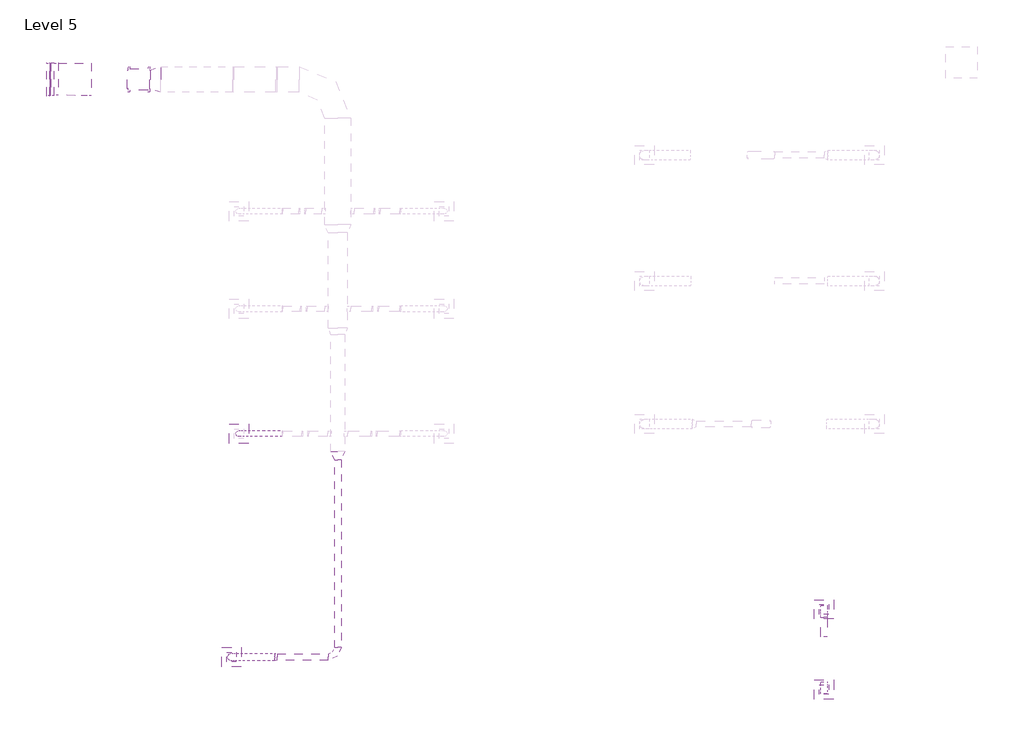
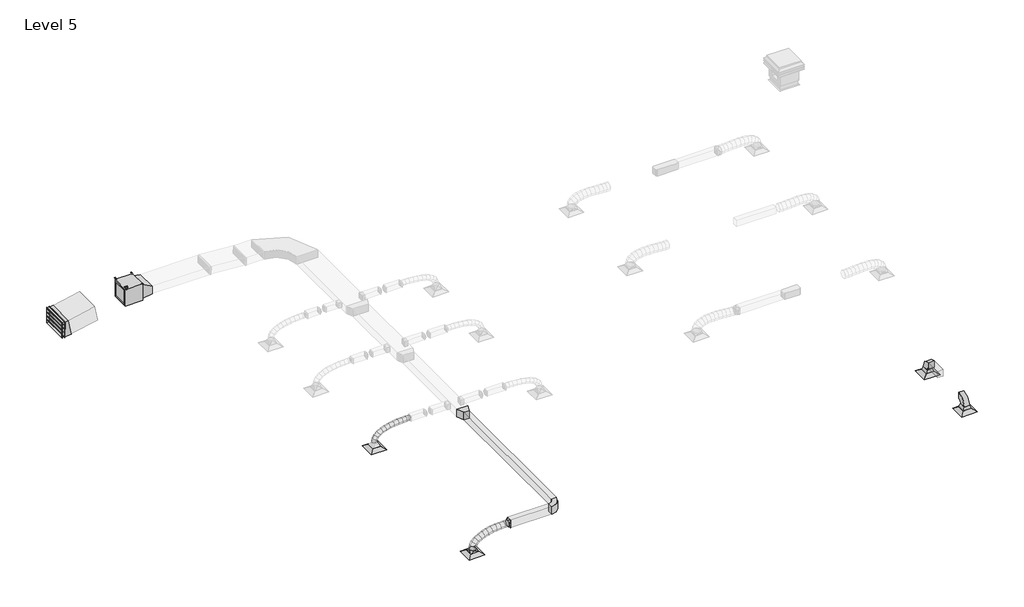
# One storey, part 1 of 7: 10 duct fittings, 9 duct segments, 5 air terminals, 1 proxy.
"""IFC4 building model written with IfcOpenShell, lengths in millimetres."""

from ifc_helpers import new_model, si_unit, frame, origin, place, context, project, spatial, polyline, circle_curve, ellipse_curve, outline, extrude, transform, mapped, element, save
from ifc_brep_helpers import plane_surface, cylinder_surface, advanced_brep
from components import extract_grille_600_x_600_face_300_x_300_connection_8a0e72a1, louvre_extruded_d47c0ff8, supply_diffuser_24_x_24_face_16_x_16_connection_3cd54949, mechanical_equipment_4f591df0, rectangular_elbow_radius_1_5_w_4260a3d3, rectangular_elbow_radius_1_5_w_bef65fd4, rectangular_medium_radius_bend_slip_joint_standard_c436b681, rectangular_medium_radius_bend_slip_joint_standard_1b082aae, rectangular_transition_angle_45_degree_aa70833a, rectangular_transition_angle_45_degree_6f019713, rectangular_transition_angle_45_degree_7a9f45a1, rectangular_to_round_transition_angle_45_degree_828fc044, rectangular_to_round_transition_angle_45_degree_84459b07

model = new_model("IFC4")

# Units and contexts
model_context = context("Model", 3, world=origin())
ifc_project = project(units=[si_unit("LENGTHUNIT", "METRE", prefix="MILLI")], contexts=[model_context])

# Site, building, storey
site = spatial("IfcSite", under=ifc_project)
building = spatial("IfcBuilding", under=site)
storey = spatial("IfcBuildingStorey", under=building, Name="Level 5", Elevation=19507.2)

# Air terminals
placement = place(None, origin())
extract_grille_600_x_600_face_300_x_300_connection_shape = extract_grille_600_x_600_face_300_x_300_connection_8a0e72a1(model_context)
element("IfcAirTerminal", 1, ObjectType="Extract Grille : 600 x 600 Face 300 x 300 Connection", at=placement, inside=storey, context=model_context, shape_type="MappedRepresentation", body=[
    mapped(extract_grille_600_x_600_face_300_x_300_connection_shape, transform((-13951.4273397, 4033.0001252, 21507.2), x_axis=(1.0, 0.0, 0.0), y_axis=(0.0, 1.0, 0.0), z_axis=(0.0, 0.0, 1.0))),
])
element("IfcAirTerminal", 2, ObjectType="Extract Grille : 600 x 600 Face 300 x 300 Connection", at=placement, inside=storey, context=model_context, shape_type="MappedRepresentation", body=[
    mapped(extract_grille_600_x_600_face_300_x_300_connection_shape, transform((-14177.4337542, -2888.3157605, 21507.2), x_axis=(1.0, 0.0, 0.0), y_axis=(0.0, 1.0, 0.0), z_axis=(0.0, 0.0, 1.0))),
])
louvre_extruded_shape = louvre_extruded_d47c0ff8(model_context)
element("IfcAirTerminal", 3, ObjectType="Louvre - Extruded : Standard Exaust", at=placement, inside=storey, context=model_context, shape_type="MappedRepresentation", body=[
    mapped(louvre_extruded_shape, transform((-19905.112755, 15011.4984256, 22007.2), x_axis=(0.0, 1.0, 0.0), y_axis=(0.0, 0.0, -1.0), z_axis=(-1.0, 0.0, 0.0))),
])
supply_diffuser_24_x_24_face_16_x_16_connection_shape = supply_diffuser_24_x_24_face_16_x_16_connection_3cd54949(model_context)
element("IfcAirTerminal", 4, ObjectType="Supply Diffuser : 24 x 24 Face 16 x 16 Connection", at=placement, inside=storey, context=model_context, shape_type="MappedRepresentation", body=[
    mapped(supply_diffuser_24_x_24_face_16_x_16_connection_shape, transform((4160.3442434, -1411.6948869, 21507.2), x_axis=(-1.0, 0.0, 0.0), y_axis=(0.0, -1.0, 0.0), z_axis=(0.0, 0.0, 1.0))),
])
element("IfcAirTerminal", 5, ObjectType="Supply Diffuser : 24 x 24 Face 16 x 16 Connection", at=placement, inside=storey, context=model_context, shape_type="MappedRepresentation", body=[
    mapped(supply_diffuser_24_x_24_face_16_x_16_connection_shape, transform((4160.3442434, -3898.5852581, 21507.2), x_axis=(-1.0, 0.0, 0.0), y_axis=(0.0, -1.0, 0.0), z_axis=(0.0, 0.0, 1.0))),
])

# Proxy
mechanical_equipment_shape = mechanical_equipment_4f591df0(model_context)
element("IfcBuildingElementProxy", 6, Name="Fan-Exhaust-CaptiveAire-Centrifugal_Inline_Direct_Drive : SIDD-165", ObjectType="Fan-Exhaust-CaptiveAire-Centrifugal_Inline_Direct_Drive : SIDD-165", at=placement, inside=storey, context=model_context, shape_type="MappedRepresentation", body=[
    mapped(mechanical_equipment_shape, transform((-17044.8230245, 15002.6239015, 22007.25), x_axis=(-1.0, 0.0, 0.0), y_axis=(0.0, -1.0, 0.0), z_axis=(0.0, 0.0, 1.0))),
])

# Duct fittings
rectangular_elbow_radius_1_5_w_shape = rectangular_elbow_radius_1_5_w_4260a3d3(model_context)
element("IfcDuctFitting", 7, ObjectType="Rectangular Elbow - Radius : 1.5 W", at=placement, inside=storey, context=model_context, shape_type="MappedRepresentation", body=[
    mapped(rectangular_elbow_radius_1_5_w_shape, transform((-19691.502558, 15011.4984256, 22007.2), x_axis=(-0.9807852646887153, 0.005141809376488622, -0.19502263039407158), y_axis=(-0.1950904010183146, -0.02584961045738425, 0.9804445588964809), z_axis=(0.0, 0.9996526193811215, 0.026356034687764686))),
])
rectangular_elbow_radius_1_5_w_2_shape = rectangular_elbow_radius_1_5_w_bef65fd4(model_context)
element("IfcDuctFitting", 8, ObjectType="Rectangular Elbow - Radius : 1.5 W", at=placement, inside=storey, context=model_context, shape_type="MappedRepresentation", body=[
    mapped(rectangular_elbow_radius_1_5_w_2_shape, transform((-10888.399049, -2888.3157605, 22250.4), x_axis=(1.0, 0.0, 0.0), y_axis=(0.0, 1.0, 0.0), z_axis=(0.0, 0.0, 1.0))),
])
rectangular_medium_radius_bend_slip_joint_standard_shape = rectangular_medium_radius_bend_slip_joint_standard_c436b681(model_context)
element("IfcDuctFitting", 9, ObjectType="Rectangular Medium Radius Bend - Slip Joint : Standard", at=placement, inside=storey, context=model_context, shape_type="MappedRepresentation", body=[
    mapped(rectangular_medium_radius_bend_slip_joint_standard_shape, transform((4160.3442434, -3898.5852581, 21983.3994502), x_axis=(0.0, 0.0, 1.0), y_axis=(0.0, 1.0, 0.0), z_axis=(-1.0, 0.0, 0.0))),
])
rectangular_medium_radius_bend_slip_joint_standard_2_shape = rectangular_medium_radius_bend_slip_joint_standard_1b082aae(model_context)
element("IfcDuctFitting", 10, ObjectType="Rectangular Medium Radius Bend - Slip Joint : Standard", at=placement, inside=storey, context=model_context, shape_type="MappedRepresentation", body=[
    mapped(rectangular_medium_radius_bend_slip_joint_standard_2_shape, transform((4160.3442434, -1411.6948869, 21983.4093771), x_axis=(0.0, 0.0, 1.0), y_axis=(0.0, -1.0, 0.0), z_axis=(1.0, 0.0, 0.0))),
])
rectangular_transition_angle_45_degree_shape = rectangular_transition_angle_45_degree_aa70833a(model_context)
element("IfcDuctFitting", 11, ObjectType="Rectangular Transition - Angle : 45 Degree", at=placement, inside=storey, context=model_context, shape_type="MappedRepresentation", body=[
    mapped(rectangular_transition_angle_45_degree_shape, transform((-16375.3958414, 15002.6239015, 22343.8), x_axis=(-1.0, 0.0, 0.0), y_axis=(0.0, -1.0, 0.0), z_axis=(0.0, 0.0, 1.0))),
])
rectangular_transition_angle_45_degree_2_shape = rectangular_transition_angle_45_degree_6f019713(model_context)
element("IfcDuctFitting", 12, ObjectType="Rectangular Transition - Angle : 45 Degree", at=placement, inside=storey, context=model_context, shape_type="MappedRepresentation", body=[
    mapped(rectangular_transition_angle_45_degree_2_shape, transform((-10888.399049, 3214.8993533, 22250.4), x_axis=(0.0, 1.0, 0.0), y_axis=(-1.0, 0.0, 0.0), z_axis=(0.0, 0.0, 1.0))),
])
rectangular_transition_angle_45_degree_3_shape = rectangular_transition_angle_45_degree_7a9f45a1(model_context)
element("IfcDuctFitting", 13, ObjectType="Rectangular Transition - Angle : 45 Degree", at=placement, inside=storey, context=model_context, shape_type="MappedRepresentation", body=[
    mapped(rectangular_transition_angle_45_degree_3_shape, transform((4160.3442434, -3898.5852581, 21612.6907837), x_axis=(0.0, 0.0, 1.0), y_axis=(-1.0, 0.0, 0.0), z_axis=(0.0, -1.0, 0.0))),
])
element("IfcDuctFitting", 14, ObjectType="Rectangular Transition - Angle : 45 Degree", at=placement, inside=storey, context=model_context, shape_type="MappedRepresentation", body=[
    mapped(rectangular_transition_angle_45_degree_3_shape, transform((4160.3442434, -1411.6948869, 21612.698699), x_axis=(0.0, 0.0, 1.0), y_axis=(1.0, 0.0, 0.0), z_axis=(0.0, 1.0, 0.0))),
])
rectangular_to_round_transition_angle_45_degree_shape = rectangular_to_round_transition_angle_45_degree_828fc044(model_context)
element("IfcDuctFitting", 15, ObjectType="Rectangular to Round Transition - Angle : 45 Degree", at=placement, inside=storey, context=model_context, shape_type="MappedRepresentation", body=[
    mapped(rectangular_to_round_transition_angle_45_degree_shape, transform((-14177.4337542, -2888.3157605, 21607.2), x_axis=(0.0, 0.0, 1.0), y_axis=(-1.0, 0.0, 0.0), z_axis=(0.0, -1.0, 0.0))),
])
rectangular_to_round_transition_angle_45_degree_2_shape = rectangular_to_round_transition_angle_45_degree_84459b07(model_context)
element("IfcDuctFitting", 16, ObjectType="Rectangular to Round Transition - Angle : 45 Degree", at=placement, inside=storey, context=model_context, shape_type="MappedRepresentation", body=[
    mapped(rectangular_to_round_transition_angle_45_degree_2_shape, transform((-12768.6491215, -2888.3157605, 22250.4), x_axis=(-1.0, 0.0, 0.0), y_axis=(0.0, -1.0, 0.0), z_axis=(0.0, 0.0, 1.0))),
])

# Duct segments
element("IfcDuctSegment", 17, ObjectType="Flex - Round", at=placement, inside=storey, context=model_context, shape_type="AdvancedBrep", body=[
    advanced_brep(
    [(-13856.600673, 4033.0001252, 21740.4002096), (-13951.4273397, 3938.1734585, 21740.4002096), (-14046.2540063, 4033.0001252, 21740.4002096), (-13951.4273397, 4127.8267918, 21740.4002096), (-13856.600673, 4033.0001252, 21747.1257674), (-13951.4273397, 3938.1734585, 21756.3980144), (-14046.2540063, 4033.0001252, 21765.6702615), (-13951.4273397, 4127.8267918, 21756.3980144), (-13840.9042421, 4033.0001252, 21826.6215495), (-13930.8630542, 3938.1734585, 21860.5474205), (-14020.8218663, 4033.0001252, 21894.4732915), (-13930.8630542, 4127.8267918, 21860.5474205), (-13798.3595041, 4033.0001252, 21899.8493536), (-13872.9403898, 3938.1734585, 21960.2436396), (-13947.5212755, 4033.0001252, 22020.6379256), (-13872.9403898, 4127.8267918, 21960.2436396), (-13727.6906802, 4033.0001252, 21963.8298786), (-13783.3146346, 3938.1734585, 22041.3869579), (-13838.9385891, 4033.0001252, 22118.9440371), (-13783.3146346, 4127.8267918, 22041.3869579), (-13628.0298936, 4033.0001252, 22019.391198), (-13667.6410769, 3938.1734585, 22105.8754664), (-13707.2522603, 4033.0001252, 22192.3597348), (-13667.6410769, 4127.8267918, 22105.8754664), (-13503.9528951, 4033.0001252, 22064.7410131), (-13531.5750048, 3938.1734585, 22155.6072562), (-13559.1971146, 4033.0001252, 22246.4734993), (-13531.5750048, 4127.8267918, 22155.6072562), (-13361.8954964, 4033.0001252, 22099.475701), (-13380.7717065, 3938.1734585, 22192.4804184), (-13399.6479166, 4033.0001252, 22285.4851358), (-13380.7717065, 4127.8267918, 22192.4804184), (-13208.4245564, 4033.0001252, 22124.3487604), (-13220.88647, 3938.1734585, 22218.3930438), (-13233.3483837, 4033.0001252, 22312.4373273), (-13220.88647, 4127.8267918, 22218.3930438), (-13049.859091, 4033.0001252, 22140.7092145), (-13057.5745837, 3938.1734585, 22235.2432237), (-13065.2900763, 4033.0001252, 22329.777233), (-13057.5745837, 4127.8267918, 22235.2432237), (-12892.2772857, 4033.0001252, 22150.1845004), (-12896.4913355, 3938.1734585, 22244.929049), (-12900.7053854, 4033.0001252, 22339.6735976), (-12896.4913355, 4127.8267918, 22244.929049), (-12741.5676591, 4033.0001252, 22154.5322383), (-12743.2920138, 3938.1734585, 22249.3486108), (-12745.0163686, 4033.0001252, 22344.1649832), (-12743.2920138, 4127.8267918, 22249.3486108), (-12602.9180528, 4033.0001252, 22155.5760203), (-12603.6319067, 4127.8267918, 22250.4), (-12604.3457606, 4033.0001252, 22345.2239797), (-12603.6319067, 3938.1734585, 22250.4)],
    [
        (0, 1, circle_curve(frame((-13951.4273397, 4033.0001252, 21740.4002096), z_axis=(0.0, 0.0, -1.0), x_axis=(1.0, 0.0, 0.0)), 94.8266667)),
        (1, 2, circle_curve(frame((-13951.4273397, 4033.0001252, 21740.4002096), z_axis=(0.0, 0.0, -1.0), x_axis=(1.0, 0.0, 0.0)), 94.8266667)),
        (2, 3, circle_curve(frame((-13951.4273397, 4033.0001252, 21740.4002096), z_axis=(0.0, 0.0, -1.0), x_axis=(1.0, 0.0, 0.0)), 94.8266667)),
        (3, 0, circle_curve(frame((-13951.4273397, 4033.0001252, 21740.4002096), z_axis=(0.0, 0.0, -1.0), x_axis=(1.0, 0.0, 0.0)), 94.8266667)),
        (0, 4),
        (4, 5, ellipse_curve(frame((-13951.4273397, 4033.0001252, 21756.3980144), z_axis=(-0.0973168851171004, 0.0, -0.9952534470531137), x_axis=(0.9952534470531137, 0.0, -0.09731688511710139)), 95.2789131, 94.8266667)),
        (5, 1),
        (5, 6, ellipse_curve(frame((-13951.4273397, 4033.0001252, 21756.3980144), z_axis=(-0.0973168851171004, 0.0, -0.9952534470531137), x_axis=(0.9952534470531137, 0.0, -0.09731688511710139)), 95.2789131, 94.8266667)),
        (6, 2),
        (6, 7, ellipse_curve(frame((-13951.4273397, 4033.0001252, 21756.3980144), z_axis=(-0.0973168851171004, 0.0, -0.9952534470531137), x_axis=(0.9952534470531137, 0.0, -0.09731688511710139)), 95.2789131, 94.8266667)),
        (7, 3),
        (7, 4, ellipse_curve(frame((-13951.4273397, 4033.0001252, 21756.3980144), z_axis=(-0.0973168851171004, 0.0, -0.9952534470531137), x_axis=(0.9952534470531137, 0.0, -0.09731688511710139)), 95.2789131, 94.8266667)),
        (4, 8),
        (8, 9, ellipse_curve(frame((-13930.8630542, 4033.0001252, 21860.5474205), z_axis=(-0.35286740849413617, 0.0, -0.9356733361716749), x_axis=(0.9356733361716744, 0.0, -0.3528674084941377)), 96.143396, 94.8266667)),
        (9, 5),
        (9, 10, ellipse_curve(frame((-13930.8630542, 4033.0001252, 21860.5474205), z_axis=(-0.35286740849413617, 0.0, -0.9356733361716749), x_axis=(0.9356733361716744, 0.0, -0.3528674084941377)), 96.143396, 94.8266667)),
        (10, 6),
        (10, 11, ellipse_curve(frame((-13930.8630542, 4033.0001252, 21860.5474205), z_axis=(-0.35286740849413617, 0.0, -0.9356733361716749), x_axis=(0.9356733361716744, 0.0, -0.3528674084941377)), 96.143396, 94.8266667)),
        (11, 7),
        (11, 8, ellipse_curve(frame((-13930.8630542, 4033.0001252, 21860.5474205), z_axis=(-0.35286740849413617, 0.0, -0.9356733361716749), x_axis=(0.9356733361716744, 0.0, -0.3528674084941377)), 96.143396, 94.8266667)),
        (8, 12),
        (12, 13, ellipse_curve(frame((-13872.9403898, 4033.0001252, 21960.2436396), z_axis=(-0.6293196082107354, 0.0, -0.7771465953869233), x_axis=(0.7771465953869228, 0.0, -0.6293196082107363)), 95.9675898, 94.8266667)),
        (13, 9),
        (13, 14, ellipse_curve(frame((-13872.9403898, 4033.0001252, 21960.2436396), z_axis=(-0.6293196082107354, 0.0, -0.7771465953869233), x_axis=(0.7771465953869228, 0.0, -0.6293196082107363)), 95.9675898, 94.8266667)),
        (14, 10),
        (14, 15, ellipse_curve(frame((-13872.9403898, 4033.0001252, 21960.2436396), z_axis=(-0.6293196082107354, 0.0, -0.7771465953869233), x_axis=(0.7771465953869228, 0.0, -0.6293196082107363)), 95.9675898, 94.8266667)),
        (15, 11),
        (15, 12, ellipse_curve(frame((-13872.9403898, 4033.0001252, 21960.2436396), z_axis=(-0.6293196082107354, 0.0, -0.7771465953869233), x_axis=(0.7771465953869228, 0.0, -0.6293196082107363)), 95.9675898, 94.8266667)),
        (12, 16),
        (16, 17, ellipse_curve(frame((-13783.3146346, 4033.0001252, 22041.3869579), z_axis=(-0.8126117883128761, 0.0, -0.5828053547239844), x_axis=(0.5828053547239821, 0.0, -0.812611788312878)), 95.4417354, 94.8266667)),
        (17, 13),
        (17, 18, ellipse_curve(frame((-13783.3146346, 4033.0001252, 22041.3869579), z_axis=(-0.8126117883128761, 0.0, -0.5828053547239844), x_axis=(0.5828053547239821, 0.0, -0.812611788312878)), 95.4417354, 94.8266667)),
        (18, 14),
        (18, 19, ellipse_curve(frame((-13783.3146346, 4033.0001252, 22041.3869579), z_axis=(-0.8126117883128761, 0.0, -0.5828053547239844), x_axis=(0.5828053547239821, 0.0, -0.812611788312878)), 95.4417354, 94.8266667)),
        (19, 15),
        (19, 16, ellipse_curve(frame((-13783.3146346, 4033.0001252, 22041.3869579), z_axis=(-0.8126117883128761, 0.0, -0.5828053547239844), x_axis=(0.5828053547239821, 0.0, -0.812611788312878)), 95.4417354, 94.8266667)),
        (16, 20),
        (20, 21, ellipse_curve(frame((-13667.6410769, 4033.0001252, 22105.8754664), z_axis=(-0.909174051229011, 0.0, -0.4164163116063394), x_axis=(0.41641631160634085, 0.0, -0.9091740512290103)), 95.1239955, 94.8266667)),
        (21, 17),
        (21, 22, ellipse_curve(frame((-13667.6410769, 4033.0001252, 22105.8754664), z_axis=(-0.909174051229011, 0.0, -0.4164163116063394), x_axis=(0.41641631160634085, 0.0, -0.9091740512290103)), 95.1239955, 94.8266667)),
        (22, 18),
        (22, 23, ellipse_curve(frame((-13667.6410769, 4033.0001252, 22105.8754664), z_axis=(-0.909174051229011, 0.0, -0.4164163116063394), x_axis=(0.41641631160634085, 0.0, -0.9091740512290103)), 95.1239955, 94.8266667)),
        (23, 19),
        (23, 20, ellipse_curve(frame((-13667.6410769, 4033.0001252, 22105.8754664), z_axis=(-0.909174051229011, 0.0, -0.4164163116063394), x_axis=(0.41641631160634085, 0.0, -0.9091740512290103)), 95.1239955, 94.8266667)),
        (20, 24),
        (24, 25, ellipse_curve(frame((-13531.5750048, 4033.0001252, 22155.6072562), z_axis=(-0.9567701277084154, 0.0, -0.29084518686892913), x_axis=(0.29084518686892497, 0.0, -0.9567701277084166)), 94.9718647, 94.8266667)),
        (25, 21),
        (25, 26, ellipse_curve(frame((-13531.5750048, 4033.0001252, 22155.6072562), z_axis=(-0.9567701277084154, 0.0, -0.29084518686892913), x_axis=(0.29084518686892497, 0.0, -0.9567701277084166)), 94.9718647, 94.8266667)),
        (26, 22),
        (26, 27, ellipse_curve(frame((-13531.5750048, 4033.0001252, 22155.6072562), z_axis=(-0.9567701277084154, 0.0, -0.29084518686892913), x_axis=(0.29084518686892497, 0.0, -0.9567701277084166)), 94.9718647, 94.8266667)),
        (27, 23),
        (27, 24, ellipse_curve(frame((-13531.5750048, 4033.0001252, 22155.6072562), z_axis=(-0.9567701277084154, 0.0, -0.29084518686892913), x_axis=(0.29084518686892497, 0.0, -0.9567701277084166)), 94.9718647, 94.8266667)),
        (24, 28),
        (28, 29, ellipse_curve(frame((-13380.7717065, 4033.0001252, 22192.4804184), z_axis=(-0.9800189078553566, 0.0, -0.19890434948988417), x_axis=(0.1989043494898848, 0.0, -0.9800189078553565)), 94.9009419, 94.8266667)),
        (29, 25),
        (29, 30, ellipse_curve(frame((-13380.7717065, 4033.0001252, 22192.4804184), z_axis=(-0.9800189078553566, 0.0, -0.19890434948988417), x_axis=(0.1989043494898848, 0.0, -0.9800189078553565)), 94.9009419, 94.8266667)),
        (30, 26),
        (30, 31, ellipse_curve(frame((-13380.7717065, 4033.0001252, 22192.4804184), z_axis=(-0.9800189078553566, 0.0, -0.19890434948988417), x_axis=(0.1989043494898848, 0.0, -0.9800189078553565)), 94.9009419, 94.8266667)),
        (31, 27),
        (31, 28, ellipse_curve(frame((-13380.7717065, 4033.0001252, 22192.4804184), z_axis=(-0.9800189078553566, 0.0, -0.19890434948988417), x_axis=(0.1989043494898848, 0.0, -0.9800189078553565)), 94.9009419, 94.8266667)),
        (28, 32),
        (32, 33, ellipse_curve(frame((-13220.88647, 4033.0001252, 22218.3930438), z_axis=(-0.9913343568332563, 0.0, -0.1313628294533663), x_axis=(0.13136282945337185, 0.0, -0.9913343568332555)), 94.8663615, 94.8266667)),
        (33, 29),
        (33, 34, ellipse_curve(frame((-13220.88647, 4033.0001252, 22218.3930438), z_axis=(-0.9913343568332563, 0.0, -0.1313628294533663), x_axis=(0.13136282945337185, 0.0, -0.9913343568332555)), 94.8663615, 94.8266667)),
        (34, 30),
        (34, 35, ellipse_curve(frame((-13220.88647, 4033.0001252, 22218.3930438), z_axis=(-0.9913343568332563, 0.0, -0.1313628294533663), x_axis=(0.13136282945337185, 0.0, -0.9913343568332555)), 94.8663615, 94.8266667)),
        (35, 31),
        (35, 32, ellipse_curve(frame((-13220.88647, 4033.0001252, 22218.3930438), z_axis=(-0.9913343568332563, 0.0, -0.1313628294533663), x_axis=(0.13136282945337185, 0.0, -0.9913343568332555)), 94.8663615, 94.8266667)),
        (32, 36),
        (36, 37, ellipse_curve(frame((-13057.5745837, 4033.0001252, 22235.2432237), z_axis=(-0.9966859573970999, 0.0, -0.08134557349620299), x_axis=(0.08134557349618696, 0.0, -0.9966859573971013)), 94.8483407, 94.8266667)),
        (37, 33),
        (37, 38, ellipse_curve(frame((-13057.5745837, 4033.0001252, 22235.2432237), z_axis=(-0.9966859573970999, 0.0, -0.08134557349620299), x_axis=(0.08134557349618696, 0.0, -0.9966859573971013)), 94.8483407, 94.8266667)),
        (38, 34),
        (38, 39, ellipse_curve(frame((-13057.5745837, 4033.0001252, 22235.2432237), z_axis=(-0.9966859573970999, 0.0, -0.08134557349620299), x_axis=(0.08134557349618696, 0.0, -0.9966859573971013)), 94.8483407, 94.8266667)),
        (39, 35),
        (39, 36, ellipse_curve(frame((-13057.5745837, 4033.0001252, 22235.2432237), z_axis=(-0.9966859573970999, 0.0, -0.08134557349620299), x_axis=(0.08134557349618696, 0.0, -0.9966859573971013)), 94.8483407, 94.8266667)),
        (36, 40),
        (40, 41, ellipse_curve(frame((-12896.4913355, 4033.0001252, 22244.929049), z_axis=(-0.9990123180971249, 0.0, -0.0444340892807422), x_axis=(0.0444340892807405, 0.0, -0.999012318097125)), 94.8382186, 94.8266667)),
        (41, 37),
        (41, 42, ellipse_curve(frame((-12896.4913355, 4033.0001252, 22244.929049), z_axis=(-0.9990123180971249, 0.0, -0.0444340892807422), x_axis=(0.0444340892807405, 0.0, -0.999012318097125)), 94.8382186, 94.8266667)),
        (42, 38),
        (42, 43, ellipse_curve(frame((-12896.4913355, 4033.0001252, 22244.929049), z_axis=(-0.9990123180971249, 0.0, -0.0444340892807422), x_axis=(0.0444340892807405, 0.0, -0.999012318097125)), 94.8382186, 94.8266667)),
        (43, 39),
        (43, 40, ellipse_curve(frame((-12896.4913355, 4033.0001252, 22244.929049), z_axis=(-0.9990123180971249, 0.0, -0.0444340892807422), x_axis=(0.0444340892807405, 0.0, -0.999012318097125)), 94.8382186, 94.8266667)),
        (40, 44),
        (44, 45, ellipse_curve(frame((-12743.2920138, 4033.0001252, 22249.3486108), z_axis=(-0.9998346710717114, 0.0, -0.01818324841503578), x_axis=(0.01818324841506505, 0.0, -0.9998346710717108)), 94.8320509, 94.8266667)),
        (45, 41),
        (45, 46, ellipse_curve(frame((-12743.2920138, 4033.0001252, 22249.3486108), z_axis=(-0.9998346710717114, 0.0, -0.01818324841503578), x_axis=(0.01818324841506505, 0.0, -0.9998346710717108)), 94.8320509, 94.8266667)),
        (46, 42),
        (46, 47, ellipse_curve(frame((-12743.2920138, 4033.0001252, 22249.3486108), z_axis=(-0.9998346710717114, 0.0, -0.01818324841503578), x_axis=(0.01818324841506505, 0.0, -0.9998346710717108)), 94.8320509, 94.8266667)),
        (47, 43),
        (47, 44, ellipse_curve(frame((-12743.2920138, 4033.0001252, 22249.3486108), z_axis=(-0.9998346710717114, 0.0, -0.01818324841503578), x_axis=(0.01818324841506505, 0.0, -0.9998346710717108)), 94.8320509, 94.8266667)),
        (48, 49, circle_curve(frame((-12603.6319067, 4033.0001252, 22250.4), z_axis=(0.9999716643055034, 0.0, 0.007527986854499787), x_axis=(0.007527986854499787, 0.0, -0.9999716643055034)), 94.8266667)),
        (49, 50, circle_curve(frame((-12603.6319067, 4033.0001252, 22250.4), z_axis=(0.9999716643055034, 0.0, 0.007527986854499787), x_axis=(0.007527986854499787, 0.0, -0.9999716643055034)), 94.8266667)),
        (50, 51, circle_curve(frame((-12603.6319067, 4033.0001252, 22250.4), z_axis=(0.9999716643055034, 0.0, 0.007527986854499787), x_axis=(0.007527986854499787, 0.0, -0.9999716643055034)), 94.8266667)),
        (51, 48, circle_curve(frame((-12603.6319067, 4033.0001252, 22250.4), z_axis=(0.9999716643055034, 0.0, 0.007527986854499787), x_axis=(0.007527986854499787, 0.0, -0.9999716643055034)), 94.8266667)),
        (44, 48),
        (51, 45),
        (50, 46),
        (49, 47),
    ],
    [
        plane_surface(frame((-13951.4273397, 3938.1734585, 21740.4002096), z_axis=(0.0, 0.0, -1.0), x_axis=(1.0, 0.0, 0.0))),
        cylinder_surface(frame((-13951.4273397, 4033.0001252, 21740.4002096), z_axis=(0.0, 0.0, -1.0), x_axis=(1.0, 0.0, 0.0)), 94.8266667),
        cylinder_surface(frame((-13951.4273397, 4033.0001252, 21756.3980144), z_axis=(-0.1937099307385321, 0.0, -0.9810588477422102), x_axis=(0.9810588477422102, 0.0, -0.1937099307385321)), 94.8266667),
        cylinder_surface(frame((-13930.8630542, 4033.0001252, 21860.5474205), z_axis=(-0.5023595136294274, 0.0, -0.8646588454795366), x_axis=(0.8646588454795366, 0.0, -0.5023595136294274)), 94.8266667),
        cylinder_surface(frame((-13872.9403898, 4033.0001252, 21960.2436396), z_axis=(-0.7413162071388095, 0.0, -0.6711559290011), x_axis=(0.6711559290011, 0.0, -0.7413162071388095)), 94.8266667),
        cylinder_surface(frame((-13783.3146346, 4033.0001252, 22041.3869579), z_axis=(-0.8734337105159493, 0.0, -0.4869430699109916), x_axis=(0.4869430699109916, 0.0, -0.8734337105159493)), 94.8266667),
        cylinder_surface(frame((-13667.6410769, 4033.0001252, 22105.8754664), z_axis=(-0.9392307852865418, 0.0, -0.3432863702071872), x_axis=(0.3432863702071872, 0.0, -0.9392307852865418)), 94.8266667),
        cylinder_surface(frame((-13531.5750048, 4033.0001252, 22155.6072562), z_axis=(-0.9713839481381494, 0.0, -0.23751468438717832), x_axis=(0.23751468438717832, 0.0, -0.9713839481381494)), 94.8266667),
        cylinder_surface(frame((-13380.7717065, 4033.0001252, 22192.4804184), z_axis=(-0.9871198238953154, 0.0, -0.1599826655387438), x_axis=(0.1599826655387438, 0.0, -0.9871198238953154)), 94.8266667),
        cylinder_surface(frame((-13220.88647, 4033.0001252, 22218.3930438), z_axis=(-0.9947192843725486, 0.0, -0.1026330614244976), x_axis=(0.1026330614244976, 0.0, -0.9947192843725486)), 94.8266667),
        cylinder_surface(frame((-13057.5745837, 4033.0001252, 22235.2432237), z_axis=(-0.9981971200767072, 0.0, -0.06002090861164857), x_axis=(0.06002090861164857, 0.0, -0.9981971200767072)), 94.8266667),
        cylinder_surface(frame((-12896.4913355, 4033.0001252, 22244.929049), z_axis=(-0.9995841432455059, 0.0, -0.028836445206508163), x_axis=(0.028836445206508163, 0.0, -0.9995841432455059)), 94.8266667),
        plane_surface(frame((-12603.6319067, 3938.1734585, 22250.4), z_axis=(0.9999716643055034, 0.0, 0.007527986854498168), x_axis=(0.007527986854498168, 0.0, -0.9999716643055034))),
        cylinder_surface(frame((-12743.2920138, 4033.0001252, 22249.3486108), z_axis=(-0.9999716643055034, 0.0, -0.007527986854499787), x_axis=(0.007527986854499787, 0.0, -0.9999716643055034)), 94.8266667),
    ],
    [
        (0, [[1, 2, 3, 4]]),
        (1, [[-1, 5, 6, 7]]),
        (1, [[-2, -7, 8, 9]]),
        (1, [[-3, -9, 10, 11]]),
        (1, [[-4, -11, 12, -5]]),
        (2, [[-6, 13, 14, 15]]),
        (2, [[-8, -15, 16, 17]]),
        (2, [[-10, -17, 18, 19]]),
        (2, [[-12, -19, 20, -13]]),
        (3, [[-14, 21, 22, 23]]),
        (3, [[-16, -23, 24, 25]]),
        (3, [[-18, -25, 26, 27]]),
        (3, [[-20, -27, 28, -21]]),
        (4, [[-22, 29, 30, 31]]),
        (4, [[-24, -31, 32, 33]]),
        (4, [[-26, -33, 34, 35]]),
        (4, [[-28, -35, 36, -29]]),
        (5, [[-30, 37, 38, 39]]),
        (5, [[-32, -39, 40, 41]]),
        (5, [[-34, -41, 42, 43]]),
        (5, [[-36, -43, 44, -37]]),
        (6, [[-38, 45, 46, 47]]),
        (6, [[-40, -47, 48, 49]]),
        (6, [[-42, -49, 50, 51]]),
        (6, [[-44, -51, 52, -45]]),
        (7, [[-46, 53, 54, 55]]),
        (7, [[-48, -55, 56, 57]]),
        (7, [[-50, -57, 58, 59]]),
        (7, [[-52, -59, 60, -53]]),
        (8, [[-54, 61, 62, 63]]),
        (8, [[-56, -63, 64, 65]]),
        (8, [[-58, -65, 66, 67]]),
        (8, [[-60, -67, 68, -61]]),
        (9, [[-62, 69, 70, 71]]),
        (9, [[-64, -71, 72, 73]]),
        (9, [[-66, -73, 74, 75]]),
        (9, [[-68, -75, 76, -69]]),
        (10, [[-70, 77, 78, 79]]),
        (10, [[-72, -79, 80, 81]]),
        (10, [[-74, -81, 82, 83]]),
        (10, [[-76, -83, 84, -77]]),
        (11, [[-78, 85, 86, 87]]),
        (11, [[-80, -87, 88, 89]]),
        (11, [[-82, -89, 90, 91]]),
        (11, [[-84, -91, 92, -85]]),
        (12, [[93, 94, 95, 96]]),
        (13, [[-86, 97, -96, 98]]),
        (13, [[-88, -98, -95, 99]]),
        (13, [[-90, -99, -94, 100]]),
        (13, [[-92, -100, -93, -97]]),
    ],
),
])
element("IfcDuctSegment", 18, ObjectType="Flex - Round", at=placement, inside=storey, context=model_context, shape_type="AdvancedBrep", body=[
    advanced_brep(
    [(-14057.1179647, -2888.3157605, 21678.8640236), (-14177.4337542, -3008.63155, 21678.8640236), (-14297.7495437, -2888.3157605, 21678.8640236), (-14177.4337542, -2767.999971, 21678.8640236), (-14057.1179647, -2888.3157605, 21686.7474175), (-14177.4337542, -3008.63155, 21698.4459209), (-14297.7495437, -2888.3157605, 21710.1444243), (-14177.4337542, -2767.999971, 21698.4459209), (-14042.7337419, -2888.3157605, 21760.0169423), (-14157.2164258, -3008.63155, 21801.4277827), (-14271.6991097, -2888.3157605, 21842.8386231), (-14157.2164258, -2767.999971, 21801.4277827), (-14003.1031377, -2888.3157605, 21832.5079927), (-14100.2311386, -3008.63155, 21905.6634715), (-14197.3591395, -2888.3157605, 21978.8189503), (-14100.2311386, -2767.999971, 21905.6634715), (-13936.7259846, -2888.3157605, 21898.1756793), (-14011.9779395, -3008.63155, 21992.9733839), (-14087.2298943, -2888.3157605, 22087.7710885), (-14011.9779395, -2767.999971, 21992.9733839), (-13841.8267527, -2888.3157605, 21957.9232103), (-13897.9568753, -3008.63155, 22064.7598138), (-13954.0869979, -2888.3157605, 22171.5964174), (-13897.9568753, -2767.999971, 22064.7598138), (-13722.4329888, -2888.3157605, 22009.1923108), (-13763.667993, -3008.63155, 22122.4250551), (-13804.9029972, -2888.3157605, 22235.6577995), (-13763.667993, -2767.999971, 22122.4250551), (-13584.6923015, -2888.3157605, 22050.7264558), (-13614.6113395, -3008.63155, 22167.3714017), (-13644.5303775, -2888.3157605, 22284.0163476), (-13614.6113395, -2767.999971, 22167.3714017), (-13435.0570234, -2888.3157605, 22082.5105464), (-13456.2869617, -3008.63155, 22201.0011475), (-13477.5168999, -2888.3157605, 22319.4917486), (-13456.2869617, -2767.999971, 22201.0011475), (-13279.7987428, -2888.3157605, 22105.2261462), (-13294.1949064, -3008.63155, 22224.7165863), (-13308.59107, -2888.3157605, 22344.2070264), (-13294.1949064, -2767.999971, 22224.7165863), (-13124.9780846, -2888.3157605, 22119.9044263), (-13133.8352206, -3008.63155, 22239.9200121), (-13142.6923566, -2888.3157605, 22359.9355979), (-13133.8352206, -2767.999971, 22239.9200121), (-12976.5089751, -2888.3157605, 22127.7519208), (-12980.7079512, -3008.63155, 22248.0137187), (-12984.9069274, -2888.3157605, 22368.2755165), (-12980.7079512, -2767.999971, 22248.0137187), (-12838.2684408, -2888.3157605, 22130.1015861), (-12840.3131451, -3008.63155, 22250.4), (-12842.3578494, -2888.3157605, 22370.6984139), (-12840.3131451, -2767.999971, 22250.4)],
    [
        (0, 1, circle_curve(frame((-14177.4337542, -2888.3157605, 21678.8640236), z_axis=(0.0, 0.0, -1.0), x_axis=(1.0, 0.0, 0.0)), 120.3157895)),
        (1, 2, circle_curve(frame((-14177.4337542, -2888.3157605, 21678.8640236), z_axis=(0.0, 0.0, -1.0), x_axis=(1.0, 0.0, 0.0)), 120.3157895)),
        (2, 3, circle_curve(frame((-14177.4337542, -2888.3157605, 21678.8640236), z_axis=(0.0, 0.0, -1.0), x_axis=(1.0, 0.0, 0.0)), 120.3157895)),
        (3, 0, circle_curve(frame((-14177.4337542, -2888.3157605, 21678.8640236), z_axis=(0.0, 0.0, -1.0), x_axis=(1.0, 0.0, 0.0)), 120.3157895)),
        (0, 4),
        (4, 5, ellipse_curve(frame((-14177.4337542, -2888.3157605, 21698.4459209), z_axis=(-0.09677527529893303, 0.0, -0.9953062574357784), x_axis=(0.9953062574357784, 0.0, -0.09677527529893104)), 120.883184, 120.3157895)),
        (5, 1),
        (5, 6, ellipse_curve(frame((-14177.4337542, -2888.3157605, 21698.4459209), z_axis=(-0.09677527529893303, 0.0, -0.9953062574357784), x_axis=(0.9953062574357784, 0.0, -0.09677527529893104)), 120.883184, 120.3157895)),
        (6, 2),
        (6, 7, ellipse_curve(frame((-14177.4337542, -2888.3157605, 21698.4459209), z_axis=(-0.09677527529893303, 0.0, -0.9953062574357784), x_axis=(0.9953062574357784, 0.0, -0.09677527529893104)), 120.883184, 120.3157895)),
        (7, 3),
        (7, 4, ellipse_curve(frame((-14177.4337542, -2888.3157605, 21698.4459209), z_axis=(-0.09677527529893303, 0.0, -0.9953062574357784), x_axis=(0.9953062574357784, 0.0, -0.09677527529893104)), 120.883184, 120.3157895)),
        (4, 8),
        (8, 9, ellipse_curve(frame((-14157.2164258, -2888.3157605, 21801.4277827), z_axis=(-0.3401521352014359, 0.0, -0.9403704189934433), x_axis=(0.9403704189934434, 0.0, -0.34015213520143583)), 121.7421152, 120.3157895)),
        (9, 5),
        (9, 10, ellipse_curve(frame((-14157.2164258, -2888.3157605, 21801.4277827), z_axis=(-0.3401521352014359, 0.0, -0.9403704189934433), x_axis=(0.9403704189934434, 0.0, -0.34015213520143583)), 121.7421152, 120.3157895)),
        (10, 6),
        (10, 11, ellipse_curve(frame((-14157.2164258, -2888.3157605, 21801.4277827), z_axis=(-0.3401521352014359, 0.0, -0.9403704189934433), x_axis=(0.9403704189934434, 0.0, -0.34015213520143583)), 121.7421152, 120.3157895)),
        (11, 7),
        (11, 8, ellipse_curve(frame((-14157.2164258, -2888.3157605, 21801.4277827), z_axis=(-0.3401521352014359, 0.0, -0.9403704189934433), x_axis=(0.9403704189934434, 0.0, -0.34015213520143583)), 121.7421152, 120.3157895)),
        (8, 12),
        (12, 13, ellipse_curve(frame((-14100.2311386, -2888.3157605, 21905.6634715), z_axis=(-0.601627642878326, 0.0, -0.7987766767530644), x_axis=(0.7987766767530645, 0.0, -0.6016276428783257)), 121.59594, 120.3157895)),
        (13, 9),
        (13, 14, ellipse_curve(frame((-14100.2311386, -2888.3157605, 21905.6634715), z_axis=(-0.601627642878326, 0.0, -0.7987766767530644), x_axis=(0.7987766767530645, 0.0, -0.6016276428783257)), 121.59594, 120.3157895)),
        (14, 10),
        (14, 15, ellipse_curve(frame((-14100.2311386, -2888.3157605, 21905.6634715), z_axis=(-0.601627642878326, 0.0, -0.7987766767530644), x_axis=(0.7987766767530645, 0.0, -0.6016276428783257)), 121.59594, 120.3157895)),
        (15, 11),
        (15, 12, ellipse_curve(frame((-14100.2311386, -2888.3157605, 21905.6634715), z_axis=(-0.601627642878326, 0.0, -0.7987766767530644), x_axis=(0.7987766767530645, 0.0, -0.6016276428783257)), 121.59594, 120.3157895)),
        (12, 16),
        (16, 17, ellipse_curve(frame((-14011.9779395, -2888.3157605, 21992.9733839), z_axis=(-0.7832258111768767, 0.0, -0.6217373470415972), x_axis=(0.6217373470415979, 0.0, -0.7832258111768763)), 121.0349599, 120.3157895)),
        (17, 13),
        (17, 18, ellipse_curve(frame((-14011.9779395, -2888.3157605, 21992.9733839), z_axis=(-0.7832258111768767, 0.0, -0.6217373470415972), x_axis=(0.6217373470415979, 0.0, -0.7832258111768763)), 121.0349599, 120.3157895)),
        (18, 14),
        (18, 19, ellipse_curve(frame((-14011.9779395, -2888.3157605, 21992.9733839), z_axis=(-0.7832258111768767, 0.0, -0.6217373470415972), x_axis=(0.6217373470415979, 0.0, -0.7832258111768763)), 121.0349599, 120.3157895)),
        (19, 15),
        (19, 16, ellipse_curve(frame((-14011.9779395, -2888.3157605, 21992.9733839), z_axis=(-0.7832258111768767, 0.0, -0.6217373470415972), x_axis=(0.6217373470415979, 0.0, -0.7832258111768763)), 121.0349599, 120.3157895)),
        (16, 20),
        (20, 21, ellipse_curve(frame((-13897.9568753, -2888.3157605, 22064.7598138), z_axis=(-0.8852583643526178, 0.0, -0.46509958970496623), x_axis=(0.4650995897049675, 0.0, -0.8852583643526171)), 120.6840939, 120.3157895)),
        (21, 17),
        (21, 22, ellipse_curve(frame((-13897.9568753, -2888.3157605, 22064.7598138), z_axis=(-0.8852583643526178, 0.0, -0.46509958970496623), x_axis=(0.4650995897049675, 0.0, -0.8852583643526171)), 120.6840939, 120.3157895)),
        (22, 18),
        (22, 23, ellipse_curve(frame((-13897.9568753, -2888.3157605, 22064.7598138), z_axis=(-0.8852583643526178, 0.0, -0.46509958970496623), x_axis=(0.4650995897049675, 0.0, -0.8852583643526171)), 120.6840939, 120.3157895)),
        (23, 19),
        (23, 20, ellipse_curve(frame((-13897.9568753, -2888.3157605, 22064.7598138), z_axis=(-0.8852583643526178, 0.0, -0.46509958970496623), x_axis=(0.4650995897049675, 0.0, -0.8852583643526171)), 120.6840939, 120.3157895)),
        (20, 24),
        (24, 25, ellipse_curve(frame((-13763.667993, -2888.3157605, 22122.4250551), z_axis=(-0.9396348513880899, 0.0, -0.3421788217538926), x_axis=(0.34217882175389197, 0.0, -0.93963485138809)), 120.5071781, 120.3157895)),
        (25, 21),
        (25, 26, ellipse_curve(frame((-13763.667993, -2888.3157605, 22122.4250551), z_axis=(-0.9396348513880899, 0.0, -0.3421788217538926), x_axis=(0.34217882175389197, 0.0, -0.93963485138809)), 120.5071781, 120.3157895)),
        (26, 22),
        (26, 27, ellipse_curve(frame((-13763.667993, -2888.3157605, 22122.4250551), z_axis=(-0.9396348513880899, 0.0, -0.3421788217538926), x_axis=(0.34217882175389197, 0.0, -0.93963485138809)), 120.5071781, 120.3157895)),
        (27, 23),
        (27, 24, ellipse_curve(frame((-13763.667993, -2888.3157605, 22122.4250551), z_axis=(-0.9396348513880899, 0.0, -0.3421788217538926), x_axis=(0.34217882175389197, 0.0, -0.93963485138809)), 120.5071781, 120.3157895)),
        (24, 28),
        (28, 29, ellipse_curve(frame((-13614.6113395, -2888.3157605, 22167.3714017), z_axis=(-0.9686437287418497, 0.0, -0.24845387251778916), x_axis=(0.2484538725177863, 0.0, -0.9686437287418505)), 120.4208962, 120.3157895)),
        (29, 25),
        (29, 30, ellipse_curve(frame((-13614.6113395, -2888.3157605, 22167.3714017), z_axis=(-0.9686437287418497, 0.0, -0.24845387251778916), x_axis=(0.2484538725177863, 0.0, -0.9686437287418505)), 120.4208962, 120.3157895)),
        (30, 26),
        (30, 31, ellipse_curve(frame((-13614.6113395, -2888.3157605, 22167.3714017), z_axis=(-0.9686437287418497, 0.0, -0.24845387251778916), x_axis=(0.2484538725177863, 0.0, -0.9686437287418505)), 120.4208962, 120.3157895)),
        (31, 27),
        (31, 28, ellipse_curve(frame((-13614.6113395, -2888.3157605, 22167.3714017), z_axis=(-0.9686437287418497, 0.0, -0.24845387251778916), x_axis=(0.2484538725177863, 0.0, -0.9686437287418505)), 120.4208962, 120.3157895)),
        (28, 32),
        (32, 33, ellipse_curve(frame((-13456.2869617, -2888.3157605, 22201.0011475), z_axis=(-0.984325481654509, 0.0, -0.17636140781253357), x_axis=(0.1763614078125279, 0.0, -0.98432548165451)), 120.3774598, 120.3157895)),
        (33, 29),
        (33, 34, ellipse_curve(frame((-13456.2869617, -2888.3157605, 22201.0011475), z_axis=(-0.984325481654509, 0.0, -0.17636140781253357), x_axis=(0.1763614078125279, 0.0, -0.98432548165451)), 120.3774598, 120.3157895)),
        (34, 30),
        (34, 35, ellipse_curve(frame((-13456.2869617, -2888.3157605, 22201.0011475), z_axis=(-0.984325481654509, 0.0, -0.17636140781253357), x_axis=(0.1763614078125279, 0.0, -0.98432548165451)), 120.3774598, 120.3157895)),
        (35, 31),
        (35, 32, ellipse_curve(frame((-13456.2869617, -2888.3157605, 22201.0011475), z_axis=(-0.984325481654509, 0.0, -0.17636140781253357), x_axis=(0.1763614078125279, 0.0, -0.98432548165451)), 120.3774598, 120.3157895)),
        (32, 36),
        (36, 37, ellipse_curve(frame((-13294.1949064, -2888.3157605, 22224.7165863), z_axis=(-0.9928203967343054, 0.0, -0.11961463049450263), x_axis=(0.11961463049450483, 0.0, -0.9928203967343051)), 120.354538, 120.3157895)),
        (37, 33),
        (37, 38, ellipse_curve(frame((-13294.1949064, -2888.3157605, 22224.7165863), z_axis=(-0.9928203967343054, 0.0, -0.11961463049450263), x_axis=(0.11961463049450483, 0.0, -0.9928203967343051)), 120.354538, 120.3157895)),
        (38, 34),
        (38, 39, ellipse_curve(frame((-13294.1949064, -2888.3157605, 22224.7165863), z_axis=(-0.9928203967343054, 0.0, -0.11961463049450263), x_axis=(0.11961463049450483, 0.0, -0.9928203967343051)), 120.354538, 120.3157895)),
        (39, 35),
        (39, 36, ellipse_curve(frame((-13294.1949064, -2888.3157605, 22224.7165863), z_axis=(-0.9928203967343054, 0.0, -0.11961463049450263), x_axis=(0.11961463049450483, 0.0, -0.9928203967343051)), 120.354538, 120.3157895)),
        (36, 40),
        (40, 41, ellipse_curve(frame((-13133.8352206, -2888.3157605, 22239.9200121), z_axis=(-0.9972878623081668, 0.0, -0.07359972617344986), x_axis=(0.07359972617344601, 0.0, -0.9972878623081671)), 120.3419698, 120.3157895)),
        (41, 37),
        (41, 42, ellipse_curve(frame((-13133.8352206, -2888.3157605, 22239.9200121), z_axis=(-0.9972878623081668, 0.0, -0.07359972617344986), x_axis=(0.07359972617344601, 0.0, -0.9972878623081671)), 120.3419698, 120.3157895)),
        (42, 38),
        (42, 43, ellipse_curve(frame((-13133.8352206, -2888.3157605, 22239.9200121), z_axis=(-0.9972878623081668, 0.0, -0.07359972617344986), x_axis=(0.07359972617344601, 0.0, -0.9972878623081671)), 120.3419698, 120.3157895)),
        (43, 39),
        (43, 40, ellipse_curve(frame((-13133.8352206, -2888.3157605, 22239.9200121), z_axis=(-0.9972878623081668, 0.0, -0.07359972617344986), x_axis=(0.07359972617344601, 0.0, -0.9972878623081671)), 120.3419698, 120.3157895)),
        (40, 44),
        (44, 45, ellipse_curve(frame((-12980.7079512, -2888.3157605, 22248.0137187), z_axis=(-0.9993910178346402, 0.0, -0.03489403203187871), x_axis=(0.03489403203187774, 0.0, -0.9993910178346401)), 120.3350798, 120.3157895)),
        (45, 41),
        (45, 46, ellipse_curve(frame((-12980.7079512, -2888.3157605, 22248.0137187), z_axis=(-0.9993910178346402, 0.0, -0.03489403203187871), x_axis=(0.03489403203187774, 0.0, -0.9993910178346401)), 120.3350798, 120.3157895)),
        (46, 42),
        (46, 47, ellipse_curve(frame((-12980.7079512, -2888.3157605, 22248.0137187), z_axis=(-0.9993910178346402, 0.0, -0.03489403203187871), x_axis=(0.03489403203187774, 0.0, -0.9993910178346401)), 120.3350798, 120.3157895)),
        (47, 43),
        (47, 44, ellipse_curve(frame((-12980.7079512, -2888.3157605, 22248.0137187), z_axis=(-0.9993910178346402, 0.0, -0.03489403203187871), x_axis=(0.03489403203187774, 0.0, -0.9993910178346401)), 120.3350798, 120.3157895)),
        (44, 48),
        (48, 49, circle_curve(frame((-12840.3131451, -2888.3157605, 22250.4), z_axis=(-0.9998555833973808, 0.0, -0.01699447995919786), x_axis=(0.01699447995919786, 0.0, -0.9998555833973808)), 120.3157895)),
        (49, 45),
        (49, 50, circle_curve(frame((-12840.3131451, -2888.3157605, 22250.4), z_axis=(-0.9998555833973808, 0.0, -0.01699447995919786), x_axis=(0.01699447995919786, 0.0, -0.9998555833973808)), 120.3157895)),
        (50, 46),
        (50, 51, circle_curve(frame((-12840.3131451, -2888.3157605, 22250.4), z_axis=(-0.9998555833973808, 0.0, -0.01699447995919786), x_axis=(0.01699447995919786, 0.0, -0.9998555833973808)), 120.3157895)),
        (51, 47),
        (51, 48, circle_curve(frame((-12840.3131451, -2888.3157605, 22250.4), z_axis=(-0.9998555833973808, 0.0, -0.01699447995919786), x_axis=(0.01699447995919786, 0.0, -0.9998555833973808)), 120.3157895)),
    ],
    [
        plane_surface(frame((-14177.4337542, -3008.63155, 21678.8640236), z_axis=(0.0, 0.0, -1.0), x_axis=(1.0, 0.0, 0.0))),
        cylinder_surface(frame((-14177.4337542, -2888.3157605, 21678.8640236), z_axis=(0.0, 0.0, -1.0), x_axis=(1.0, 0.0, 0.0)), 120.3157895),
        cylinder_surface(frame((-14177.4337542, -2888.3157605, 21698.4459209), z_axis=(-0.19264207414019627, 0.0, -0.9812690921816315), x_axis=(0.9812690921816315, 0.0, -0.19264207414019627)), 120.3157895),
        cylinder_surface(frame((-14157.2164258, -2888.3157605, 21801.4277827), z_axis=(-0.4796917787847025, 0.0, -0.8774370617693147), x_axis=(0.8774370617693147, 0.0, -0.4796917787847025)), 120.3157895),
        cylinder_surface(frame((-14100.2311386, -2888.3157605, 21905.6634715), z_axis=(-0.7108957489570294, 0.0, -0.7032974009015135), x_axis=(0.7032974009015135, 0.0, -0.7108957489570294)), 120.3157895),
        cylinder_surface(frame((-14011.9779395, -2888.3157605, 21992.9733839), z_axis=(-0.8462482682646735, 0.0, -0.5327887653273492), x_axis=(0.5327887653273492, 0.0, -0.8462482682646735)), 120.3157895),
        cylinder_surface(frame((-13897.9568753, -2888.3157605, 22064.7598138), z_axis=(-0.9188651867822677, 0.0, -0.3945716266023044), x_axis=(0.3945716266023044, 0.0, -0.9188651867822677)), 120.3157895),
        cylinder_surface(frame((-13763.667993, -2888.3157605, 22122.4250551), z_axis=(-0.9574198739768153, 0.0, -0.2886991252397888), x_axis=(0.2886991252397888, 0.0, -0.9574198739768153)), 120.3157895),
        cylinder_surface(frame((-13614.6113395, -2888.3157605, 22167.3714017), z_axis=(-0.9781766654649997, 0.0, -0.2077749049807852), x_axis=(0.2077749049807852, 0.0, -0.9781766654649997)), 120.3157895),
        cylinder_surface(frame((-13456.2869617, -2888.3157605, 22201.0011475), z_axis=(-0.9894657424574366, 0.0, -0.14476720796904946), x_axis=(0.14476720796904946, 0.0, -0.9894657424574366)), 120.3157895),
        cylinder_surface(frame((-13294.1949064, -2888.3157605, 22224.7165863), z_axis=(-0.9955357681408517, 0.0, -0.0943850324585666), x_axis=(0.0943850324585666, 0.0, -0.9955357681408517)), 120.3157895),
        cylinder_surface(frame((-13133.8352206, -2888.3157605, 22239.9200121), z_axis=(-0.9986060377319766, 0.0, -0.05278239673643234), x_axis=(0.05278239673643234, 0.0, -0.9986060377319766)), 120.3157895),
        cylinder_surface(frame((-12980.7079512, -2888.3157605, 22248.0137187), z_axis=(-0.9998555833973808, 0.0, -0.01699447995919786), x_axis=(0.01699447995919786, 0.0, -0.9998555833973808)), 120.3157895),
        plane_surface(frame((-12840.3131451, -3008.63155, 22250.4), z_axis=(0.9998555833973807, 0.0, 0.01699447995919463), x_axis=(0.01699447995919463, 0.0, -0.9998555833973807))),
    ],
    [
        (0, [[1, 2, 3, 4]]),
        (1, [[-1, 5, 6, 7]]),
        (1, [[-2, -7, 8, 9]]),
        (1, [[-3, -9, 10, 11]]),
        (1, [[-4, -11, 12, -5]]),
        (2, [[-6, 13, 14, 15]]),
        (2, [[-8, -15, 16, 17]]),
        (2, [[-10, -17, 18, 19]]),
        (2, [[-12, -19, 20, -13]]),
        (3, [[-14, 21, 22, 23]]),
        (3, [[-16, -23, 24, 25]]),
        (3, [[-18, -25, 26, 27]]),
        (3, [[-20, -27, 28, -21]]),
        (4, [[-22, 29, 30, 31]]),
        (4, [[-24, -31, 32, 33]]),
        (4, [[-26, -33, 34, 35]]),
        (4, [[-28, -35, 36, -29]]),
        (5, [[-30, 37, 38, 39]]),
        (5, [[-32, -39, 40, 41]]),
        (5, [[-34, -41, 42, 43]]),
        (5, [[-36, -43, 44, -37]]),
        (6, [[-38, 45, 46, 47]]),
        (6, [[-40, -47, 48, 49]]),
        (6, [[-42, -49, 50, 51]]),
        (6, [[-44, -51, 52, -45]]),
        (7, [[-46, 53, 54, 55]]),
        (7, [[-48, -55, 56, 57]]),
        (7, [[-50, -57, 58, 59]]),
        (7, [[-52, -59, 60, -53]]),
        (8, [[-54, 61, 62, 63]]),
        (8, [[-56, -63, 64, 65]]),
        (8, [[-58, -65, 66, 67]]),
        (8, [[-60, -67, 68, -61]]),
        (9, [[-62, 69, 70, 71]]),
        (9, [[-64, -71, 72, 73]]),
        (9, [[-66, -73, 74, 75]]),
        (9, [[-68, -75, 76, -69]]),
        (10, [[-70, 77, 78, 79]]),
        (10, [[-72, -79, 80, 81]]),
        (10, [[-74, -81, 82, 83]]),
        (10, [[-76, -83, 84, -77]]),
        (11, [[-78, 85, 86, 87]]),
        (11, [[-80, -87, 88, 89]]),
        (11, [[-82, -89, 90, 91]]),
        (11, [[-84, -91, 92, -85]]),
        (12, [[-86, 93, 94, 95]]),
        (12, [[-88, -95, 96, 97]]),
        (12, [[-90, -97, 98, 99]]),
        (12, [[-92, -99, 100, -93]]),
        (13, [[-100, -98, -96, -94]]),
    ],
),
])
element("IfcDuctSegment", 19, ObjectType="Mitered Elbows / Tees", at=placement, inside=storey, context=model_context, shape_type="SweptSolid", body=[
    extrude(outline(polyline([(4310.3442434, -1561.6948869), (4010.3442434, -1561.6948869), (4010.3442434, -1261.6948869), (4310.3442434, -1261.6948869), (4310.3442434, -1561.6948869)])), frame((0.0, 0.0, 21608.8), z_axis=(0.0, 0.0, 1.0), x_axis=(1.0, 0.0, 0.0)), (0.0, 0.0, 1.0), 3.898699),
])
element("IfcDuctSegment", 20, ObjectType="Mitered Elbows / Tees", at=placement, inside=storey, context=model_context, shape_type="SweptSolid", body=[
    extrude(outline(polyline([(4260.3442434, -2264.0370549), (4060.3442434, -2264.0370549), (4060.3442434, -1661.6948869), (4260.3442434, -1661.6948869), (4260.3442434, -2264.0370549)])), frame((0.0, 0.0, 21858.4093774), z_axis=(0.0, 0.0, 1.0), x_axis=(1.0, 0.0, 0.0)), (0.0, 0.0, 1.0), 250.0),
])
element("IfcDuctSegment", 21, ObjectType="Mitered Elbows / Tees", at=placement, inside=storey, context=model_context, shape_type="SweptSolid", body=[
    extrude(outline(polyline([(-150.0, 362.1320343), (150.0, 362.1320343), (150.0, 62.1320343), (-150.0, 62.1320343), (-150.0, 362.1320343)])), frame((4160.3442434, -4110.7172924, 21608.8), z_axis=(0.0, -6.676927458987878e-12, 1.0), x_axis=(1.0, 0.0, 0.0)), (0.0, 0.0, 1.0), 3.8907837),
])
element("IfcDuctSegment", 22, ObjectType="Radius Elbows / Taps", at=placement, inside=storey, context=model_context, shape_type="SweptSolid", body=[
    extrude(outline(polyline([(-12768.6491215, -2988.3157605), (-12768.6491215, -2788.3157605), (-11188.399049, -2788.3157605), (-11188.399049, -2988.3157605), (-12768.6491215, -2988.3157605)])), frame((0.0, 0.0, 22100.4), z_axis=(0.0, 0.0, 1.0), x_axis=(1.0, 0.0, 0.0)), (0.0, 0.0, 1.0), 300.0),
])
element("IfcDuctSegment", 23, ObjectType="Radius Elbows / Taps", at=placement, inside=storey, context=model_context, shape_type="SweptSolid", body=[
    extrude(outline(polyline([(-10788.399049, -2588.3157605), (-10988.399049, -2588.3157605), (-10988.399049, 3214.8993533), (-10788.399049, 3214.8993533), (-10788.399049, -2588.3157605)])), frame((0.0, 0.0, 22100.4), z_axis=(0.0, 0.0, 1.0), x_axis=(1.0, 0.0, 0.0)), (0.0, 0.0, 1.0), 300.0),
])
element("IfcDuctSegment", 24, ObjectType="Radius Elbows / Taps", at=placement, inside=storey, context=model_context, shape_type="SweptSolid", body=[
    extrude(outline(polyline([(-19803.512755, 14511.4984256), (-19803.512755, 15511.4984256), (-19780.1448576, 15511.4984256), (-19780.1448576, 14511.4984256), (-19803.512755, 14511.4984256)])), frame((0.0, 0.0, 21707.2), z_axis=(0.0, 0.0, 1.0), x_axis=(1.0, 0.0, 0.0)), (0.0, 0.0, 1.0), 600.0),
])
element("IfcDuctSegment", 25, ObjectType="Radius Elbows / Taps", at=placement, inside=storey, context=model_context, shape_type="SweptSolid", body=[
    extrude(outline(polyline([(0.0, -1000.0), (0.0, 0.0), (1045.7246934, 0.0), (1045.7246934, -1000.0), (0.0, -1000.0)])), frame((-18523.0473771, 14505.3658775, 21934.187612), z_axis=(-0.19501995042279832, 0.0010224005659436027, 0.9807987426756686), x_axis=(-0.9807852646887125, 0.005141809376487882, -0.19502263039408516)), (0.0, 0.0, 1.0), 600.0),
])

save(model, "model.ifc")
